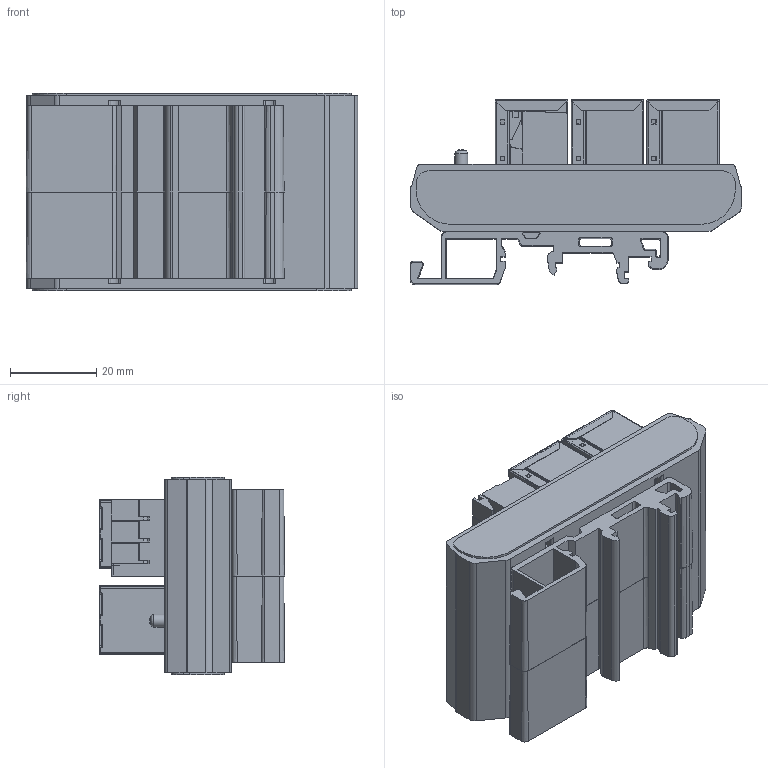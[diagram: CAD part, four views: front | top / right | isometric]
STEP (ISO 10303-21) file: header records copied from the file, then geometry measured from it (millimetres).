
FILE_DESCRIPTION(/* description */ (''),/* implementation_level */ '2;1');
FILE_NAME(/* name */ 'D:\WorkIMT\Project IMT\ОДУВАНЧИК, ОГО!\ГИДРА-ETH-5\v1\GIDRA-ETH-5 3D.stp',/* time_stamp */ '2025-10-02T11:42:32+03:00',/* author */ ('Admin'),/* organization */ (''),/* preprocessor_version */ 'ST-DEVELOPER v17.2',/* originating_system */ 'Autodesk Inventor 2019',/* authorisation */ '');
FILE_SCHEMA (('AUTOMOTIVE_DESIGN { 1 0 10303 214 3 1 1 }'));
Products named in the file (1): GIDRA-ETH-5 3D
Bounding box: 77.07 x 43.03 x 45.9 mm (x, y, z)
Volume: 61066.4 mm3; surface area: 53922.4 mm2
Topology: 1 solids, 5 shells, 5376 faces, 15752 edges, 10094 vertices
Faces by surface type: plane 4067, cylinder 1047, bspline 121, cone 77, sphere 41, torus 23
Full cylindrical faces by diameter (mm): 0.463 x2, 0.9 x10, 1.058 x3, 1.5 x60, 3 x1
Entity records: 188740 total; most frequent: CARTESIAN_POINT 38514, ORIENTED_EDGE 31524, DIRECTION 28345, EDGE_CURVE 15762, LINE 13059, VECTOR 13059, VERTEX_POINT 10094, AXIS2_PLACEMENT_3D 7643
